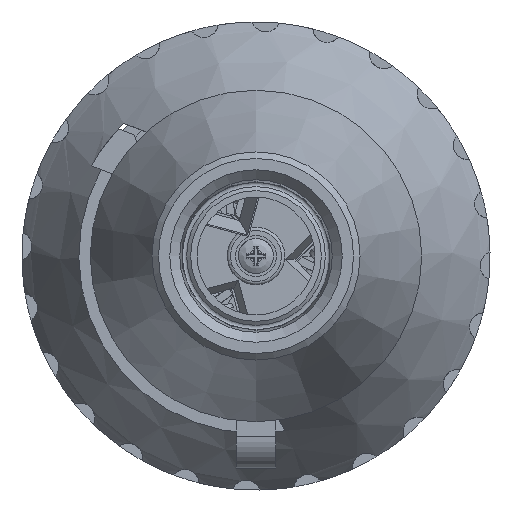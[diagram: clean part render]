
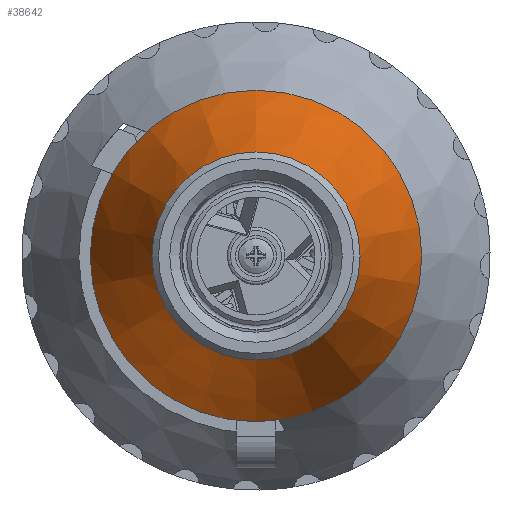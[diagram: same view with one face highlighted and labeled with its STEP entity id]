
A CAD part, left-side view. The second image highlights one B-rep face of the part: STEP entity #38642.
In plain terms, the highlighted conical face has half-angle 20.925 degrees and reference radius 20.75 mm.
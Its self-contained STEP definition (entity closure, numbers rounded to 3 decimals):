
#38588=CARTESIAN_POINT('',(-85.294,0.,25.5));
#38589=VERTEX_POINT('',#38588);
#38590=CARTESIAN_POINT('',(-85.294,0.,0.));
#38591=DIRECTION('',(-1.0,0.,0.));
#38592=DIRECTION('',(0.,0.,1.0));
#38593=AXIS2_PLACEMENT_3D('',#38590,#38591,#38592);
#38594=CIRCLE('',#38593,25.5);
#38595=EDGE_CURVE('',#38589,#38589,#38594,.T.);
#38623=CARTESIAN_POINT('',(-97.717,0.,0.));
#38624=DIRECTION('',(1.0,0.0,0.));
#38625=DIRECTION('',(0.,0.,1.0));
#38626=AXIS2_PLACEMENT_3D('',#38623,#38624,#38625);
#38627=CONICAL_SURFACE('',#38626,20.75,20.925);
#38628=CARTESIAN_POINT('',(-110.14,0.,16.));
#38629=VERTEX_POINT('',#38628);
#38630=CARTESIAN_POINT('',(-110.14,0.,0.));
#38631=DIRECTION('',(-1.0,0.0,0.));
#38632=DIRECTION('',(0.0,1.0,0.0));
#38633=AXIS2_PLACEMENT_3D('',#38630,#38631,#38632);
#38634=CIRCLE('',#38633,16.0);
#38635=EDGE_CURVE('',#38629,#38629,#38634,.T.);
#38636=ORIENTED_EDGE('',*,*,#38635,.F.);
#38637=EDGE_LOOP('',(#38636));
#38638=FACE_OUTER_BOUND('',#38637,.T.);
#38639=ORIENTED_EDGE('',*,*,#38595,.T.);
#38640=EDGE_LOOP('',(#38639));
#38641=FACE_BOUND('',#38640,.T.);
#38642=ADVANCED_FACE('',(#38638,#38641),#38627,.T.);
